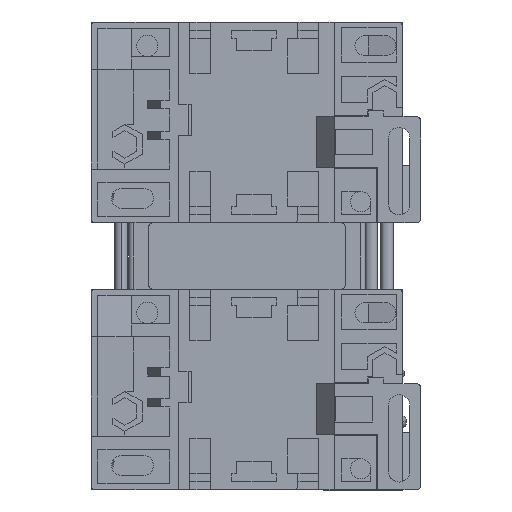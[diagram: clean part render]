
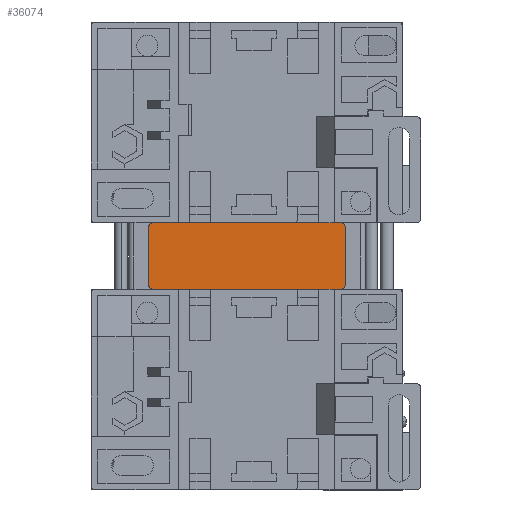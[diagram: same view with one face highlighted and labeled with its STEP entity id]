
A CAD part, front view. The second image highlights one B-rep face of the part: STEP entity #36074.
In plain terms, the highlighted planar face has unit normal (0, -1, 0).
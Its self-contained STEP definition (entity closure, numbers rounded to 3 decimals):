
#6676 = AXIS2_PLACEMENT_3D ( 'NONE', #38014, #38015, #38017 ) ;
#22439 = CARTESIAN_POINT ( 'NONE',  ( 20.58, -32.651, 36.421 ) ) ;
#22444 = CARTESIAN_POINT ( 'NONE',  ( -23.92, -32.651, 36.421 ) ) ;
#22445 = DIRECTION ( 'NONE',  ( 0., 0., -1. ) ) ;
#22450 = DIRECTION ( 'NONE',  ( 0., 0., -1. ) ) ;
#22462 = CARTESIAN_POINT ( 'NONE',  ( -22.92, -32.651, 22.421 ) ) ;
#22463 = DIRECTION ( 'NONE',  ( 0., -1., 0. ) ) ;
#22464 = DIRECTION ( 'NONE',  ( -1., 0., 0. ) ) ;
#22467 = DIRECTION ( 'NONE',  ( 1., 0., 0. ) ) ;
#22468 = CARTESIAN_POINT ( 'NONE',  ( 20.58, -32.651, 36.421 ) ) ;
#22481 = CARTESIAN_POINT ( 'NONE',  ( -22.92, -32.651, 35.421 ) ) ;
#22482 = DIRECTION ( 'NONE',  ( 0., -1., 0. ) ) ;
#22483 = DIRECTION ( 'NONE',  ( -1., 0., 0. ) ) ;
#22529 = CARTESIAN_POINT ( 'NONE',  ( 19.58, -32.651, 22.421 ) ) ;
#22530 = DIRECTION ( 'NONE',  ( 0., -1., 0. ) ) ;
#22531 = DIRECTION ( 'NONE',  ( -1., 0., 0. ) ) ;
#22552 = CARTESIAN_POINT ( 'NONE',  ( 20.58, -32.651, 21.421 ) ) ;
#22553 = DIRECTION ( 'NONE',  ( 1., 0., 0. ) ) ;
#27645 = CARTESIAN_POINT ( 'NONE',  ( -22.92, -32.651, 36.421 ) ) ;
#28994 = VERTEX_POINT ( 'NONE', #27645 ) ;
#36074 = ADVANCED_FACE ( 'NONE', ( #39302 ), #37977, .F. ) ;
#37977 = PLANE ( 'NONE',  #6676 ) ;
#38014 = CARTESIAN_POINT ( 'NONE',  ( 20.58, -32.651, 36.421 ) ) ;
#38015 = DIRECTION ( 'NONE',  ( 0., 1., 0. ) ) ;
#38017 = DIRECTION ( 'NONE',  ( -1., 0., 0. ) ) ;
#39083 = EDGE_CURVE ( 'NONE', #49029, #49019, #78158, .T. ) ;
#39302 = FACE_OUTER_BOUND ( 'NONE', #86472, .T. ) ;
#43842 = ORIENTED_EDGE ( 'NONE', *, *, #89887, .F. ) ;
#44044 = ORIENTED_EDGE ( 'NONE', *, *, #39083, .T. ) ;
#44206 = ORIENTED_EDGE ( 'NONE', *, *, #89874, .T. ) ;
#44245 = ORIENTED_EDGE ( 'NONE', *, *, #89908, .T. ) ;
#44250 = ORIENTED_EDGE ( 'NONE', *, *, #89889, .T. ) ;
#44251 = ORIENTED_EDGE ( 'NONE', *, *, #89882, .T. ) ;
#44252 = ORIENTED_EDGE ( 'NONE', *, *, #89877, .F. ) ;
#44269 = ORIENTED_EDGE ( 'NONE', *, *, #89915, .T. ) ;
#44306 = VERTEX_POINT ( 'NONE', #77778 ) ;
#44307 = VERTEX_POINT ( 'NONE', #77779 ) ;
#44308 = VERTEX_POINT ( 'NONE', #77781 ) ;
#44309 = VERTEX_POINT ( 'NONE', #77783 ) ;
#44310 = VERTEX_POINT ( 'NONE', #77786 ) ;
#49019 = VERTEX_POINT ( 'NONE', #67948 ) ;
#49029 = VERTEX_POINT ( 'NONE', #67958 ) ;
#64189 = AXIS2_PLACEMENT_3D ( 'NONE', #77500, #77502, #77504 ) ;
#67099 = AXIS2_PLACEMENT_3D ( 'NONE', #22462, #22463, #22464 ) ;
#67107 = AXIS2_PLACEMENT_3D ( 'NONE', #22481, #22482, #22483 ) ;
#67127 = AXIS2_PLACEMENT_3D ( 'NONE', #22529, #22530, #22531 ) ;
#67948 = CARTESIAN_POINT ( 'NONE',  ( 19.58, -32.651, 36.421 ) ) ;
#67958 = CARTESIAN_POINT ( 'NONE',  ( 20.58, -32.651, 35.421 ) ) ;
#77500 = CARTESIAN_POINT ( 'NONE',  ( 19.58, -32.651, 35.421 ) ) ;
#77502 = DIRECTION ( 'NONE',  ( 0., -1., 0. ) ) ;
#77504 = DIRECTION ( 'NONE',  ( -1., 0., 0. ) ) ;
#77778 = CARTESIAN_POINT ( 'NONE',  ( -23.92, -32.651, 35.421 ) ) ;
#77779 = CARTESIAN_POINT ( 'NONE',  ( -23.92, -32.651, 22.421 ) ) ;
#77781 = CARTESIAN_POINT ( 'NONE',  ( -22.92, -32.651, 21.421 ) ) ;
#77783 = CARTESIAN_POINT ( 'NONE',  ( 19.58, -32.651, 21.421 ) ) ;
#77786 = CARTESIAN_POINT ( 'NONE',  ( 20.58, -32.651, 22.421 ) ) ;
#78158 = CIRCLE ( 'NONE', #64189, 1. ) ;
#80271 = LINE ( 'NONE', #22439, #80290 ) ;
#80274 = LINE ( 'NONE', #22444, #80279 ) ;
#80279 = VECTOR ( 'NONE', #22445, 1000. ) ;
#80290 = VECTOR ( 'NONE', #22450, 1000. ) ;
#80297 = CIRCLE ( 'NONE', #67099, 1. ) ;
#80325 = CIRCLE ( 'NONE', #67107, 1. ) ;
#80327 = LINE ( 'NONE', #22468, #80330 ) ;
#80330 = VECTOR ( 'NONE', #22467, 1000. ) ;
#80405 = CIRCLE ( 'NONE', #67127, 1. ) ;
#80416 = LINE ( 'NONE', #22552, #80422 ) ;
#80422 = VECTOR ( 'NONE', #22553, 1000. ) ;
#86472 = EDGE_LOOP ( 'NONE', ( #43842, #44250, #44206, #44251, #44269, #44245, #44252, #44044 ) ) ;
#89874 = EDGE_CURVE ( 'NONE', #44306, #44307, #80274, .T. ) ;
#89877 = EDGE_CURVE ( 'NONE', #49029, #44310, #80271, .T. ) ;
#89882 = EDGE_CURVE ( 'NONE', #44307, #44308, #80297, .T. ) ;
#89887 = EDGE_CURVE ( 'NONE', #28994, #49019, #80327, .T. ) ;
#89889 = EDGE_CURVE ( 'NONE', #28994, #44306, #80325, .T. ) ;
#89908 = EDGE_CURVE ( 'NONE', #44309, #44310, #80405, .T. ) ;
#89915 = EDGE_CURVE ( 'NONE', #44308, #44309, #80416, .T. ) ;
